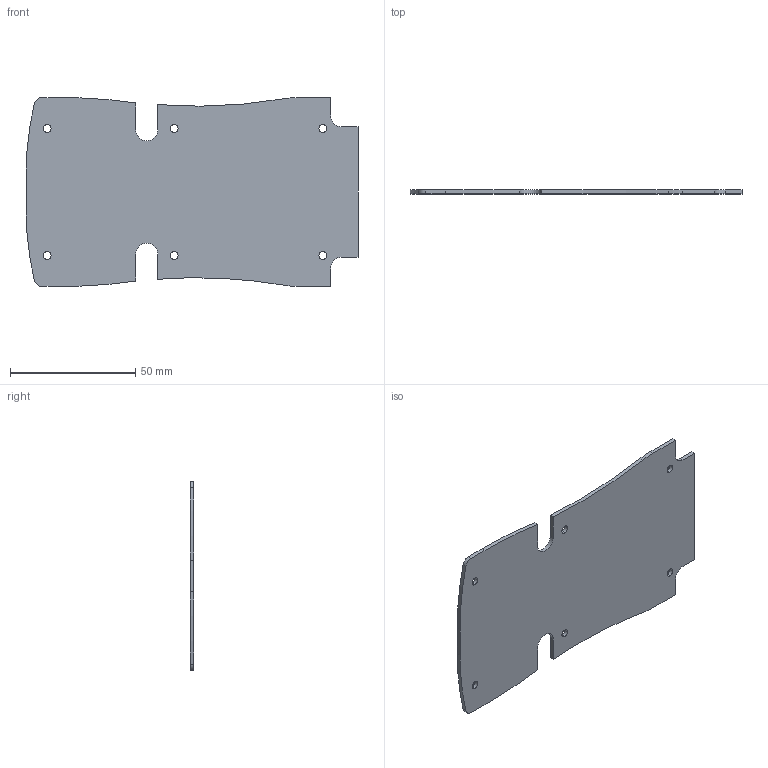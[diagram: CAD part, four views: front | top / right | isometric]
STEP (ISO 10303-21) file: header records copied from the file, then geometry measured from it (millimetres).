
FILE_DESCRIPTION (( 'STEP AP214' ), '1' );
FILE_NAME ('VM-35B-PCB.STEP', '2025-03-26T16:54:41', ( '' ), ( '' ), 'SwSTEP 2.0', 'SolidWorks 2025', '' );
FILE_SCHEMA (( 'AUTOMOTIVE_DESIGN' ));
Length unit declared in the file: inch
Products named in the file (1): VM-35B-PCB
Bounding box: 132.77 x 1.59 x 75.57 mm (x, y, z)
Volume: 14364.8 mm3; surface area: 18916.9 mm2
Topology: 1 solids, 1 shells, 44 faces, 126 edges, 84 vertices
Faces by surface type: cylinder 28, plane 16
Entity records: 1517 total; most frequent: DIRECTION 272, CARTESIAN_POINT 255, ORIENTED_EDGE 252, EDGE_CURVE 126, AXIS2_PLACEMENT_3D 101, VERTEX_POINT 84, VECTOR 70, LINE 70
